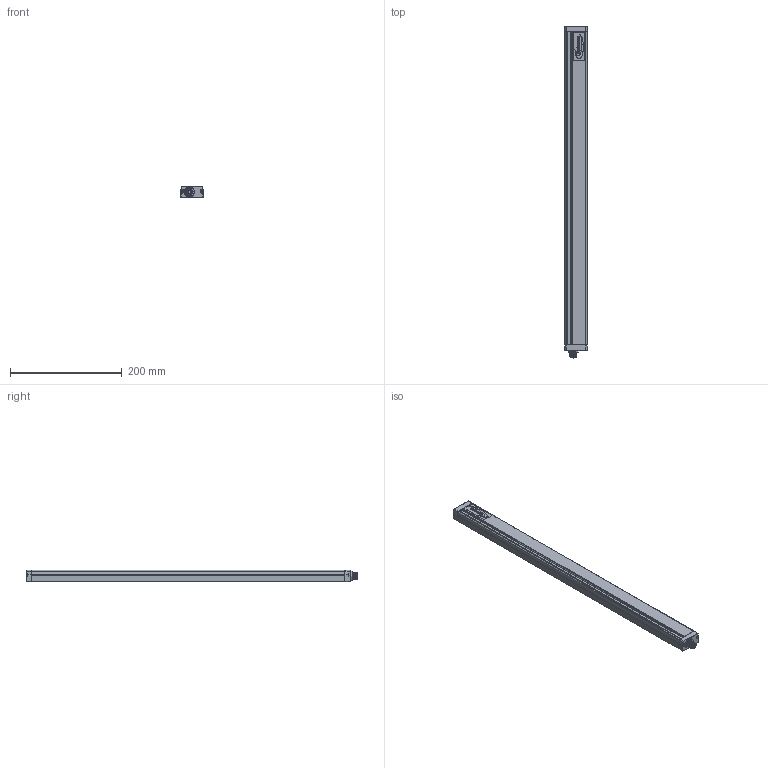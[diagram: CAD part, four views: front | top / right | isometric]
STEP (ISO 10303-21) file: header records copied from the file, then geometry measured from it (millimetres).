
FILE_DESCRIPTION(/* description */ (''),/* implementation_level */ '2;1');
FILE_NAME(/* name */ 'C:\Users\andre\SynologyDrive\Optoscan\Libreria Componenti\00 - Barriere\Barriera sorgente\Argo_560_TX.stp',/* time_stamp */ '2021-04-22T10:18:00+02:00',/* author */ ('andre'),/* organization */ (''),/* preprocessor_version */ 'ST-DEVELOPER v18',/* originating_system */ 'Autodesk Inventor 2020',/* authorisation */ '');
FILE_SCHEMA (('AUTOMOTIVE_DESIGN { 1 0 10303 214 3 1 1 }'));
Length unit declared in the file: millimetre
Products named in the file (1): Argo_560_TX
Bounding box: 40.5 x 593.3 x 20.75 mm (x, y, z)
Volume: 120508.5 mm3; surface area: 154270.8 mm2
Topology: 1 solids, 1 shells, 696 faces, 1911 edges, 1225 vertices
Faces by surface type: plane 321, cylinder 195, bspline 94, torus 72, cone 8, sphere 6
Full cylindrical faces by diameter (mm): 1 x4, 2.459 x4, 2.5 x4, 3 x4, 3.5 x4, 5.5 x4, 8 x1, 10.5 x2, 11.75 x9, 15.7 x1, 17.5 x1
Entity records: 30770 total; most frequent: CARTESIAN_POINT 12670, ORIENTED_EDGE 3806, DIRECTION 3415, EDGE_CURVE 1903, VERTEX_POINT 1225, AXIS2_PLACEMENT_3D 1193, LINE 1029, VECTOR 1029
